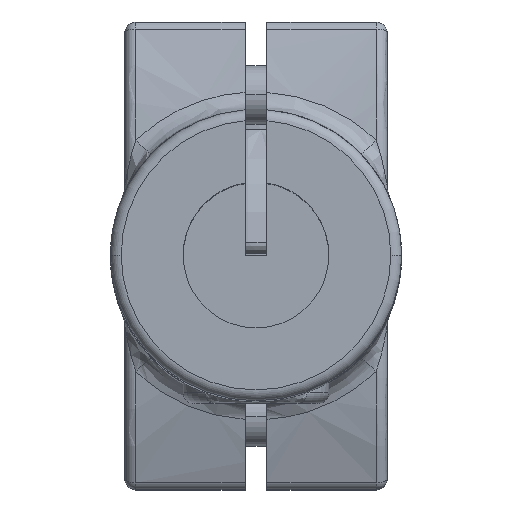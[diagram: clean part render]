
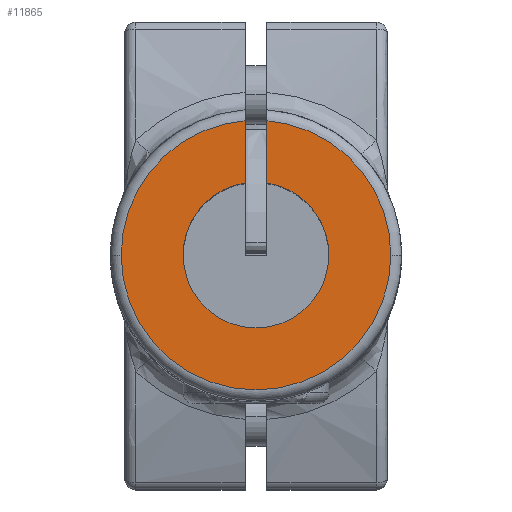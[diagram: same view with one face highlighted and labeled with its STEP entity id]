
A CAD part, top view. The second image highlights one B-rep face of the part: STEP entity #11865.
In plain terms, the highlighted planar face has unit normal (0, 0, 1) as drawn and (0, 0, -1) by its records, which use the part's own axes.
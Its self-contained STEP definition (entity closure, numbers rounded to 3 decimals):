
#212 = CARTESIAN_POINT ( 'NONE',  ( 1.5, 9.887, 0. ) ) ;
#556 = DIRECTION ( 'NONE',  ( 0., 0., -1. ) ) ;
#639 = DIRECTION ( 'NONE',  ( 1., 0., 0. ) ) ;
#922 = CARTESIAN_POINT ( 'NONE',  ( -1.5, 18.439, 0. ) ) ;
#946 = DIRECTION ( 'NONE',  ( 1., 0., 0. ) ) ;
#1269 = VERTEX_POINT ( 'NONE', #11361 ) ;
#1511 = EDGE_CURVE ( 'NONE', #1641, #13586, #2752, .T. ) ;
#1641 = VERTEX_POINT ( 'NONE', #7758 ) ;
#1771 = ORIENTED_EDGE ( 'NONE', *, *, #9426, .T. ) ;
#2752 = CIRCLE ( 'NONE', #12135, 18.5 ) ;
#2782 = DIRECTION ( 'NONE',  ( -1., 0., 0. ) ) ;
#3097 = CIRCLE ( 'NONE', #11929, 10. ) ;
#3457 = DIRECTION ( 'NONE',  ( 0., 0., -1. ) ) ;
#3703 = CARTESIAN_POINT ( 'NONE',  ( 0., 0., 0. ) ) ;
#3987 = VECTOR ( 'NONE', #6061, 1000. ) ;
#4098 = VERTEX_POINT ( 'NONE', #12039 ) ;
#4551 = FACE_OUTER_BOUND ( 'NONE', #12557, .T. ) ;
#4571 = EDGE_CURVE ( 'NONE', #1641, #11392, #16326, .T. ) ;
#4630 = DIRECTION ( 'NONE',  ( 0., 0., 1. ) ) ;
#4739 = VERTEX_POINT ( 'NONE', #11735 ) ;
#5078 = ORIENTED_EDGE ( 'NONE', *, *, #14932, .T. ) ;
#5538 = LINE ( 'NONE', #15666, #15167 ) ;
#6061 = DIRECTION ( 'NONE',  ( 0., -1., 0. ) ) ;
#6139 = DIRECTION ( 'NONE',  ( 1., 0., 0. ) ) ;
#6460 = ORIENTED_EDGE ( 'NONE', *, *, #15561, .T. ) ;
#6567 = AXIS2_PLACEMENT_3D ( 'NONE', #3703, #13571, #6139 ) ;
#6924 = CARTESIAN_POINT ( 'NONE',  ( 0., 0., 0. ) ) ;
#7019 = CARTESIAN_POINT ( 'NONE',  ( 0., 0., 0. ) ) ;
#7412 = AXIS2_PLACEMENT_3D ( 'NONE', #8323, #4630, #15843 ) ;
#7568 = CARTESIAN_POINT ( 'NONE',  ( 1.5, 0., 0. ) ) ;
#7758 = CARTESIAN_POINT ( 'NONE',  ( 1.5, 18.439, 0. ) ) ;
#7761 = CARTESIAN_POINT ( 'NONE',  ( -18.5, 0., 0. ) ) ;
#8095 = EDGE_CURVE ( 'NONE', #4098, #8238, #5538, .T. ) ;
#8238 = VERTEX_POINT ( 'NONE', #922 ) ;
#8323 = CARTESIAN_POINT ( 'NONE',  ( 0., 0., 0. ) ) ;
#8943 = DIRECTION ( 'NONE',  ( -1., 0., 0. ) ) ;
#9160 = DIRECTION ( 'NONE',  ( 0., 0., 1. ) ) ;
#9200 = ORIENTED_EDGE ( 'NONE', *, *, #4571, .F. ) ;
#9331 = DIRECTION ( 'NONE',  ( 0., 0., 1. ) ) ;
#9426 = EDGE_CURVE ( 'NONE', #4098, #4739, #10720, .T. ) ;
#9891 = ORIENTED_EDGE ( 'NONE', *, *, #8095, .F. ) ;
#10300 = ORIENTED_EDGE ( 'NONE', *, *, #10504, .T. ) ;
#10504 = EDGE_CURVE ( 'NONE', #13307, #8238, #15249, .T. ) ;
#10720 = CIRCLE ( 'NONE', #12845, 10. ) ;
#10766 = CARTESIAN_POINT ( 'NONE',  ( 0., 0., 0. ) ) ;
#11176 = CARTESIAN_POINT ( 'NONE',  ( 0., 0., 0. ) ) ;
#11361 = CARTESIAN_POINT ( 'NONE',  ( 10., 0., 0. ) ) ;
#11392 = VERTEX_POINT ( 'NONE', #212 ) ;
#11663 = CIRCLE ( 'NONE', #14873, 10. ) ;
#11735 = CARTESIAN_POINT ( 'NONE',  ( -10., 0., 0. ) ) ;
#11865 = ADVANCED_FACE ( 'NONE', ( #4551 ), #14680, .F. ) ;
#11929 = AXIS2_PLACEMENT_3D ( 'NONE', #6924, #9331, #2782 ) ;
#12039 = CARTESIAN_POINT ( 'NONE',  ( -1.5, 9.887, 0. ) ) ;
#12058 = DIRECTION ( 'NONE',  ( 0., 1., 0. ) ) ;
#12135 = AXIS2_PLACEMENT_3D ( 'NONE', #7019, #556, #639 ) ;
#12215 = ORIENTED_EDGE ( 'NONE', *, *, #15580, .T. ) ;
#12557 = EDGE_LOOP ( 'NONE', ( #9200, #13914, #5078, #10300, #9891, #1771, #6460, #12215 ) ) ;
#12845 = AXIS2_PLACEMENT_3D ( 'NONE', #14198, #15317, #8943 ) ;
#13307 = VERTEX_POINT ( 'NONE', #7761 ) ;
#13571 = DIRECTION ( 'NONE',  ( 0., 0., -1. ) ) ;
#13586 = VERTEX_POINT ( 'NONE', #14941 ) ;
#13914 = ORIENTED_EDGE ( 'NONE', *, *, #1511, .T. ) ;
#14051 = CIRCLE ( 'NONE', #6567, 18.5 ) ;
#14198 = CARTESIAN_POINT ( 'NONE',  ( 0., 0., 0. ) ) ;
#14407 = AXIS2_PLACEMENT_3D ( 'NONE', #11176, #3457, #946 ) ;
#14680 = PLANE ( 'NONE',  #7412 ) ;
#14873 = AXIS2_PLACEMENT_3D ( 'NONE', #10766, #9160, #15861 ) ;
#14932 = EDGE_CURVE ( 'NONE', #13586, #13307, #14051, .T. ) ;
#14941 = CARTESIAN_POINT ( 'NONE',  ( 18.5, 0., 0. ) ) ;
#15167 = VECTOR ( 'NONE', #12058, 1000. ) ;
#15249 = CIRCLE ( 'NONE', #14407, 18.5 ) ;
#15317 = DIRECTION ( 'NONE',  ( 0., 0., 1. ) ) ;
#15561 = EDGE_CURVE ( 'NONE', #4739, #1269, #3097, .T. ) ;
#15580 = EDGE_CURVE ( 'NONE', #1269, #11392, #11663, .T. ) ;
#15666 = CARTESIAN_POINT ( 'NONE',  ( -1.5, 0., 0. ) ) ;
#15843 = DIRECTION ( 'NONE',  ( 1., 0., 0. ) ) ;
#15861 = DIRECTION ( 'NONE',  ( -1., 0., 0. ) ) ;
#16326 = LINE ( 'NONE', #7568, #3987 ) ;
